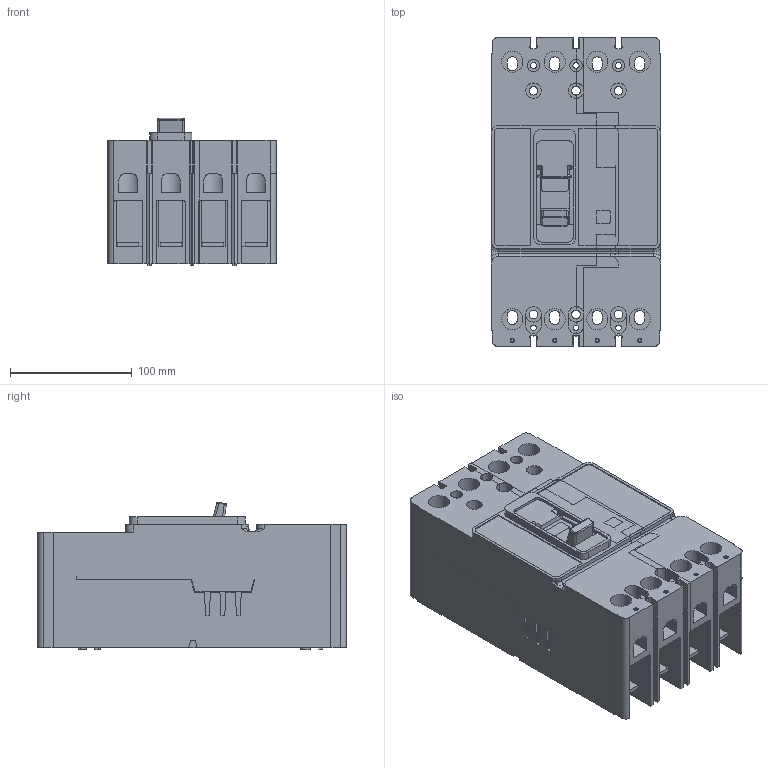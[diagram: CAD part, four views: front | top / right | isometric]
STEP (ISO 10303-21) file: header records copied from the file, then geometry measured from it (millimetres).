
FILE_DESCRIPTION((''),'2;1');
FILE_NAME('C:\temp\JD4_.stp','2015-11-02T10:21:54',('e9952678'),(''),'Autodesk Inventor 2013','Autodesk Inventor 2013','');
FILE_SCHEMA(('AUTOMOTIVE_DESIGN { 1 0 10303 214 1 1 1 1 }'));
Length unit declared in the file: inch
Products named in the file (1): JD4_
Bounding box: 139.73 x 254 x 121.44 mm (x, y, z)
Volume: 3172572.5 mm3; surface area: 360326.7 mm2
Topology: 2 solids, 9 shells, 1389 faces, 3865 edges, 2555 vertices
Faces by surface type: plane 1071, cylinder 299, cone 9, torus 6, bspline 4
Full cylindrical faces by diameter (mm): 2.794 x4, 3.556 x4, 4.572 x3, 5.08 x3, 5.156 x4, 5.309 x6, 5.563 x6, 6.35 x10, 6.756 x4, 7.137 x6, 7.925 x9, 8.077 x3, 10.033 x3, 10.16 x3, 12.7 x6, 17.475 x16
Entity records: 45167 total; most frequent: CARTESIAN_POINT 8094, ORIENTED_EDGE 7440, DIRECTION 7181, EDGE_CURVE 3720, VECTOR 2919, LINE 2919, VERTEX_POINT 2508, AXIS2_PLACEMENT_3D 2131
